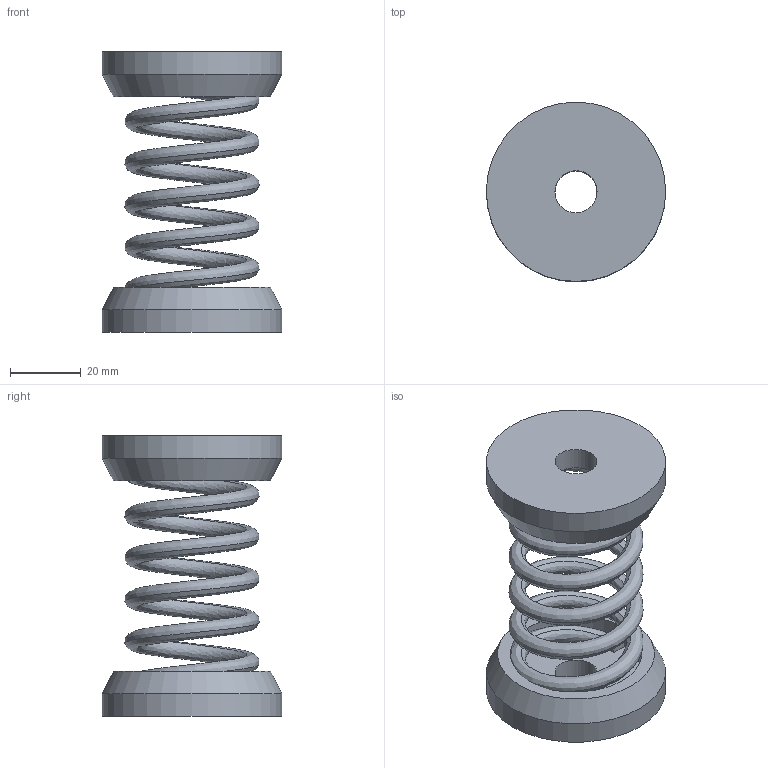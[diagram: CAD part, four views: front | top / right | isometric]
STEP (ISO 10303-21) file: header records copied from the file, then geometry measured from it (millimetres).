
FILE_DESCRIPTION(/* description */ (''),/* implementation_level */ '2;1');
FILE_NAME(/* name */ '\\Mleuckthor2\cad-proe_solids\WEBSITE FILES 05.22.13\STEP\IMF\IMF-X-210.stp',/* time_stamp */ '2016-03-05T17:13:05-05:00',/* author */ ('rramoutar'),/* organization */ ('Mason Industries Inc.'),/* preprocessor_version */ 'ST-DEVELOPER v15.6',/* originating_system */ 'Autodesk Inventor 2015',/* authorisation */ '');
FILE_SCHEMA (('CONFIG_CONTROL_DESIGN'));
Length unit declared in the file: inch
Products named in the file (1): IMF-X-210
Bounding box: 50.8 x 50.8 x 79.38 mm (x, y, z)
Volume: 38934.3 mm3; surface area: 27410.7 mm2
Topology: 3 solids, 3 shells, 44 faces, 106 edges, 70 vertices
Faces by surface type: bspline 22, plane 12, cylinder 8, cone 2
Full cylindrical faces by diameter (mm): 11.906 x2, 37.306 x2, 50.8 x2
Entity records: 10064 total; most frequent: CARTESIAN_POINT 9104, ORIENTED_EDGE 196, DIRECTION 116, EDGE_CURVE 98, VERTEX_POINT 70, EDGE_LOOP 60, B_SPLINE_CURVE_WITH_KNOTS 48, STYLED_ITEM 47
